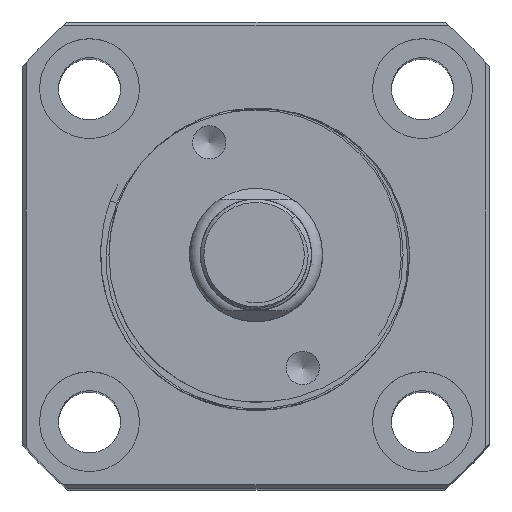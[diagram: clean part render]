
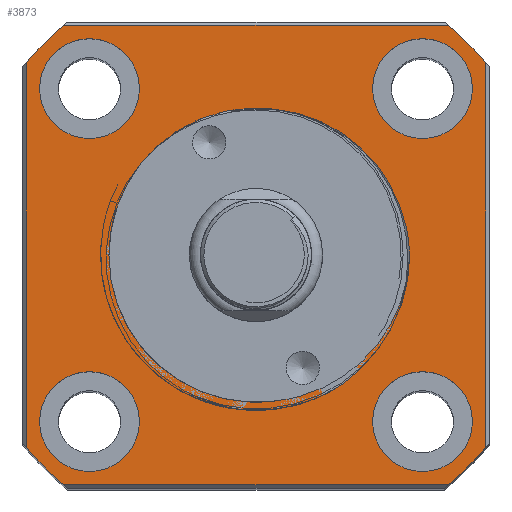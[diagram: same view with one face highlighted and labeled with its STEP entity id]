
A CAD part, top view. The second image highlights one B-rep face of the part: STEP entity #3873.
In plain terms, the highlighted planar face has unit normal (0, 0, 1).
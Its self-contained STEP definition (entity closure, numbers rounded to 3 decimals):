
#3489=B_SPLINE_CURVE_WITH_KNOTS('',3,(#15814,#15815,#15816,#15817,#15818,
#15819),.UNSPECIFIED.,.F.,.F.,(4,2,4),(0.,0.5,1.),.UNSPECIFIED.);
#3490=B_SPLINE_CURVE_WITH_KNOTS('',3,(#15821,#15822,#15823,#15824,#15825,
#15826),.UNSPECIFIED.,.F.,.F.,(4,2,4),(0.,0.5,1.),.UNSPECIFIED.);
#3873=ADVANCED_FACE('',(#4721,#4722,#4723,#4724,#4725,#4726),#4356,.T.);
#4356=PLANE('',#12668);
#4721=FACE_BOUND('',#4930,.T.);
#4722=FACE_BOUND('',#4931,.T.);
#4723=FACE_BOUND('',#4932,.T.);
#4724=FACE_BOUND('',#4933,.T.);
#4725=FACE_BOUND('',#4934,.T.);
#4726=FACE_BOUND('',#4935,.T.);
#4930=EDGE_LOOP('',(#7490));
#4931=EDGE_LOOP('',(#7491));
#4932=EDGE_LOOP('',(#7492));
#4933=EDGE_LOOP('',(#7493));
#4934=EDGE_LOOP('',(#7494,#7495,#7496));
#4935=EDGE_LOOP('',(#7497,#7498,#7499,#7500,#7501,#7502,#7503,#7504));
#5516=LINE('',#15827,#6404);
#5517=LINE('',#15832,#6405);
#5518=LINE('',#15836,#6406);
#5519=LINE('',#15840,#6407);
#6404=VECTOR('',#13218,1.);
#6405=VECTOR('',#13221,1.);
#6406=VECTOR('',#13224,1.);
#6407=VECTOR('',#13227,1.);
#7490=ORIENTED_EDGE('',*,*,#11161,.F.);
#7491=ORIENTED_EDGE('',*,*,#11163,.F.);
#7492=ORIENTED_EDGE('',*,*,#11165,.F.);
#7493=ORIENTED_EDGE('',*,*,#11167,.F.);
#7494=ORIENTED_EDGE('',*,*,#11197,.F.);
#7495=ORIENTED_EDGE('',*,*,#11219,.T.);
#7496=ORIENTED_EDGE('',*,*,#11220,.T.);
#7497=ORIENTED_EDGE('',*,*,#11221,.T.);
#7498=ORIENTED_EDGE('',*,*,#11222,.T.);
#7499=ORIENTED_EDGE('',*,*,#11223,.T.);
#7500=ORIENTED_EDGE('',*,*,#11224,.T.);
#7501=ORIENTED_EDGE('',*,*,#11225,.T.);
#7502=ORIENTED_EDGE('',*,*,#11226,.T.);
#7503=ORIENTED_EDGE('',*,*,#11227,.T.);
#7504=ORIENTED_EDGE('',*,*,#11228,.T.);
#10178=VERTEX_POINT('',#15388);
#10180=VERTEX_POINT('',#15393);
#10182=VERTEX_POINT('',#15398);
#10184=VERTEX_POINT('',#15403);
#10214=VERTEX_POINT('',#15621);
#10215=VERTEX_POINT('',#15623);
#10236=VERTEX_POINT('',#15820);
#10237=VERTEX_POINT('',#15828);
#10238=VERTEX_POINT('',#15829);
#10239=VERTEX_POINT('',#15831);
#10240=VERTEX_POINT('',#15833);
#10241=VERTEX_POINT('',#15835);
#10242=VERTEX_POINT('',#15837);
#10243=VERTEX_POINT('',#15839);
#10244=VERTEX_POINT('',#15841);
#11161=EDGE_CURVE('',#10178,#10178,#12525,.T.);
#11163=EDGE_CURVE('',#10180,#10180,#12527,.T.);
#11165=EDGE_CURVE('',#10182,#10182,#12529,.T.);
#11167=EDGE_CURVE('',#10184,#10184,#12531,.T.);
#11197=EDGE_CURVE('',#10214,#10215,#12541,.T.);
#11219=EDGE_CURVE('',#10214,#10236,#3489,.T.);
#11220=EDGE_CURVE('',#10236,#10215,#3490,.T.);
#11221=EDGE_CURVE('',#10237,#10238,#5516,.T.);
#11222=EDGE_CURVE('',#10238,#10239,#12543,.T.);
#11223=EDGE_CURVE('',#10239,#10240,#5517,.T.);
#11224=EDGE_CURVE('',#10240,#10241,#12544,.T.);
#11225=EDGE_CURVE('',#10241,#10242,#5518,.T.);
#11226=EDGE_CURVE('',#10242,#10243,#12545,.T.);
#11227=EDGE_CURVE('',#10243,#10244,#5519,.T.);
#11228=EDGE_CURVE('',#10244,#10237,#12546,.T.);
#12525=CIRCLE('',#12637,4.5);
#12527=CIRCLE('',#12640,4.5);
#12529=CIRCLE('',#12643,4.5);
#12531=CIRCLE('',#12646,4.5);
#12541=CIRCLE('',#12661,13.25);
#12543=CIRCLE('',#12664,27.);
#12544=CIRCLE('',#12665,27.);
#12545=CIRCLE('',#12666,27.);
#12546=CIRCLE('',#12667,27.);
#12637=AXIS2_PLACEMENT_3D('',#15387,#13163,#13164);
#12640=AXIS2_PLACEMENT_3D('',#15392,#13169,#13170);
#12643=AXIS2_PLACEMENT_3D('',#15397,#13175,#13176);
#12646=AXIS2_PLACEMENT_3D('',#15402,#13181,#13182);
#12661=AXIS2_PLACEMENT_3D('',#15622,#13211,#13212);
#12664=AXIS2_PLACEMENT_3D('',#15830,#13219,#13220);
#12665=AXIS2_PLACEMENT_3D('',#15834,#13222,#13223);
#12666=AXIS2_PLACEMENT_3D('',#15838,#13225,#13226);
#12667=AXIS2_PLACEMENT_3D('',#15842,#13228,#13229);
#12668=AXIS2_PLACEMENT_3D('',#15843,#13230,#13231);
#13163=DIRECTION('',(0.,0.,1.));
#13164=DIRECTION('',(1.,0.,0.));
#13169=DIRECTION('',(0.,0.,1.));
#13170=DIRECTION('',(1.,0.,0.));
#13175=DIRECTION('',(0.,0.,1.));
#13176=DIRECTION('',(1.,0.,0.));
#13181=DIRECTION('',(0.,0.,1.));
#13182=DIRECTION('',(1.,0.,0.));
#13211=DIRECTION('',(0.,0.,1.));
#13212=DIRECTION('',(1.,0.,0.));
#13218=DIRECTION('',(0.,1.,0.));
#13219=DIRECTION('',(0.,0.,1.));
#13220=DIRECTION('',(1.,0.,0.));
#13221=DIRECTION('',(-1.,0.,0.));
#13222=DIRECTION('',(0.,0.,1.));
#13223=DIRECTION('',(1.,0.,0.));
#13224=DIRECTION('',(0.,-1.,0.));
#13225=DIRECTION('',(0.,0.,1.));
#13226=DIRECTION('',(1.,0.,0.));
#13227=DIRECTION('',(1.,0.,0.));
#13228=DIRECTION('',(0.,0.,1.));
#13229=DIRECTION('',(1.,0.,0.));
#13230=DIRECTION('',(0.,0.,1.));
#13231=DIRECTION('',(-1.,0.,0.));
#15387=CARTESIAN_POINT('',(-71.32,-9.636,72.361));
#15388=CARTESIAN_POINT('',(-66.82,-9.636,72.361));
#15392=CARTESIAN_POINT('',(-41.32,-9.636,72.361));
#15393=CARTESIAN_POINT('',(-36.82,-9.636,72.361));
#15397=CARTESIAN_POINT('',(-41.32,20.364,72.361));
#15398=CARTESIAN_POINT('',(-36.82,20.364,72.361));
#15402=CARTESIAN_POINT('',(-71.32,20.364,72.361));
#15403=CARTESIAN_POINT('',(-66.82,20.364,72.361));
#15621=CARTESIAN_POINT('',(-54.591,18.501,72.361));
#15622=CARTESIAN_POINT('',(-56.32,5.364,72.361));
#15623=CARTESIAN_POINT('',(-54.591,-7.773,72.361));
#15814=CARTESIAN_POINT('',(-54.591,18.501,72.361));
#15815=CARTESIAN_POINT('',(-51.328,18.174,72.361));
#15816=CARTESIAN_POINT('',(-48.246,16.603,72.361));
#15817=CARTESIAN_POINT('',(-43.876,11.834,72.361));
#15818=CARTESIAN_POINT('',(-42.566,8.641,72.361));
#15819=CARTESIAN_POINT('',(-42.473,5.364,72.361));
#15820=CARTESIAN_POINT('',(-42.473,5.364,72.361));
#15821=CARTESIAN_POINT('',(-42.473,5.364,72.361));
#15822=CARTESIAN_POINT('',(-42.566,2.087,72.361));
#15823=CARTESIAN_POINT('',(-43.878,-1.108,72.361));
#15824=CARTESIAN_POINT('',(-48.246,-5.874,72.361));
#15825=CARTESIAN_POINT('',(-51.328,-7.445,72.361));
#15826=CARTESIAN_POINT('',(-54.591,-7.773,72.361));
#15827=CARTESIAN_POINT('',(-35.62,26.364,72.361));
#15828=CARTESIAN_POINT('',(-35.62,-11.971,72.361));
#15829=CARTESIAN_POINT('',(-35.62,22.699,72.361));
#15830=CARTESIAN_POINT('',(-56.32,5.364,72.361));
#15831=CARTESIAN_POINT('',(-38.985,26.064,72.361));
#15832=CARTESIAN_POINT('',(-77.32,26.064,72.361));
#15833=CARTESIAN_POINT('',(-73.655,26.064,72.361));
#15834=CARTESIAN_POINT('',(-56.32,5.364,72.361));
#15835=CARTESIAN_POINT('',(-77.02,22.699,72.361));
#15836=CARTESIAN_POINT('',(-77.02,-15.636,72.361));
#15837=CARTESIAN_POINT('',(-77.02,-11.971,72.361));
#15838=CARTESIAN_POINT('',(-56.32,5.364,72.361));
#15839=CARTESIAN_POINT('',(-73.655,-15.336,72.361));
#15840=CARTESIAN_POINT('',(-35.32,-15.336,72.361));
#15841=CARTESIAN_POINT('',(-38.985,-15.336,72.361));
#15842=CARTESIAN_POINT('',(-56.32,5.364,72.361));
#15843=CARTESIAN_POINT('',(-56.32,5.364,72.361));
